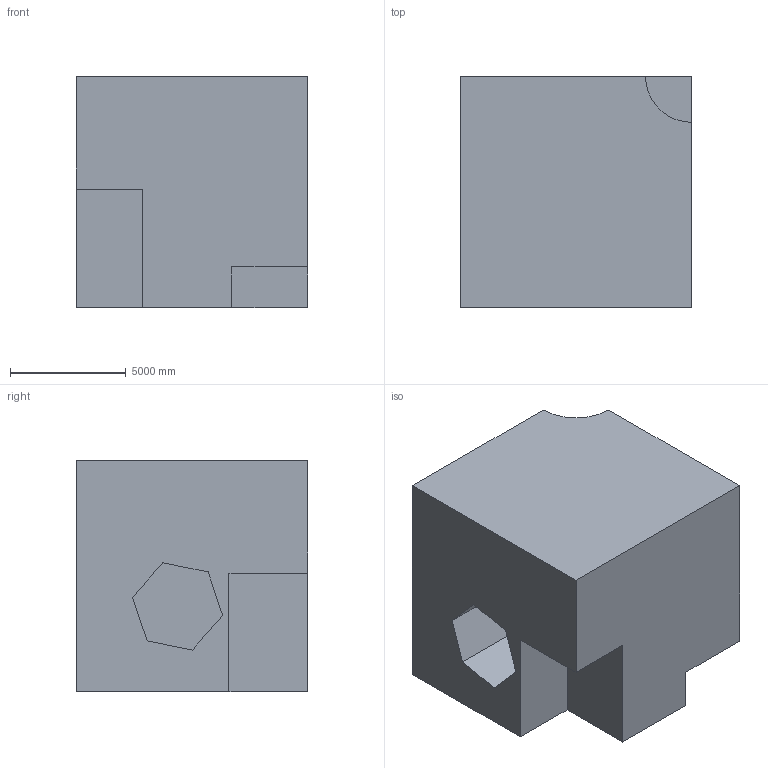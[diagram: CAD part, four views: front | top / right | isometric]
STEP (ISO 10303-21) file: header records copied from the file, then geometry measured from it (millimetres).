
FILE_DESCRIPTION (( 'STEP AP203' ), '1' );
FILE_NAME ('372.STEP', '2022-07-29T11:02:17', ( 'user' ), ( '' ), 'SwSTEP 2.0', 'SolidWorks 2021', '' );
FILE_SCHEMA (( 'CONFIG_CONTROL_DESIGN' ));
Length unit declared in the file: centimetre
Products named in the file (1): 372
Bounding box: 10000 x 10000 x 10000 mm (x, y, z)
Volume: 829719400643.2 mm3; surface area: 678128282.2 mm2
Topology: 1 solids, 1 shells, 21 faces, 54 edges, 36 vertices
Faces by surface type: plane 20, cylinder 1
Entity records: 707 total; most frequent: CARTESIAN_POINT 112, ORIENTED_EDGE 108, DIRECTION 100, EDGE_CURVE 54, VECTOR 52, LINE 52, VERTEX_POINT 36, AXIS2_PLACEMENT_3D 24
